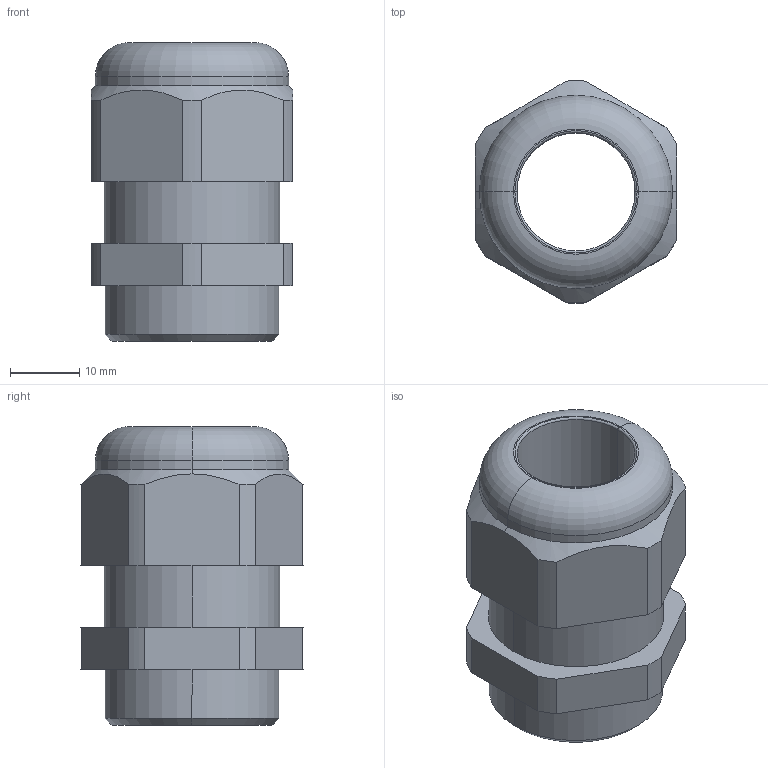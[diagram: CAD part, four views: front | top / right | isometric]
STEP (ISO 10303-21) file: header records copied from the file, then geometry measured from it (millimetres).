
FILE_DESCRIPTION (( 'STEP AP203' ), '1' );
FILE_NAME ('50.625 PASW-EX.STEP', '2006-10-09T09:49:54', ( ' ' ), ( '' ), 'SwSTEP 2.0', 'SolidWorks 2005278', '' );
FILE_SCHEMA (( 'CONFIG_CONTROL_DESIGN' ));
Length unit declared in the file: millimetre
Products named in the file (1): 50.625 PASW-EX
Bounding box: 29 x 31.99 x 43 mm (x, y, z)
Volume: 16217.4 mm3; surface area: 7231.7 mm2
Topology: 1 solids, 1 shells, 82 faces, 214 edges, 140 vertices
Faces by surface type: plane 54, cylinder 20, cone 4, torus 4
Entity records: 2653 total; most frequent: CARTESIAN_POINT 521, ORIENTED_EDGE 428, DIRECTION 422, EDGE_CURVE 214, VECTOR 156, LINE 156, VERTEX_POINT 140, AXIS2_PLACEMENT_3D 133
